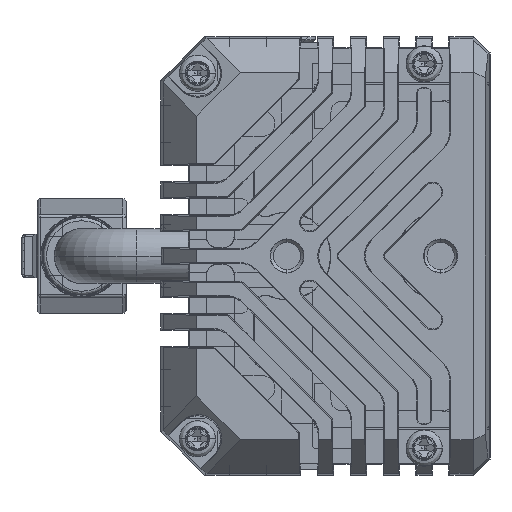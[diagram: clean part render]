
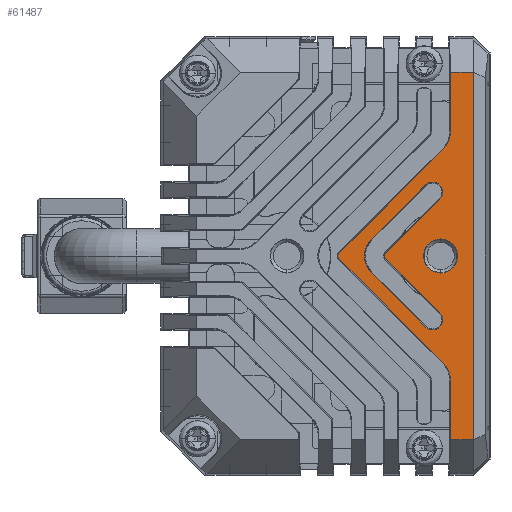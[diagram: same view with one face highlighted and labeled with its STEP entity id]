
A CAD part, left-side view. The second image highlights one B-rep face of the part: STEP entity #61487.
In plain terms, the highlighted planar face has unit normal (-1, 0, 0).
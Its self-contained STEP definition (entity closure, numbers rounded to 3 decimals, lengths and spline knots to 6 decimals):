
#12086=DIRECTION('',(0.,0.,1.));
#12087=VECTOR('',#12086,0.005438);
#12088=CARTESIAN_POINT('',(-0.414,-0.012607,0.011312));
#12089=LINE('',#12088,#12087);
#12378=DIRECTION('',(0.,0.,1.));
#12379=VECTOR('',#12378,0.005438);
#12380=CARTESIAN_POINT('',(-0.414,-0.012607,-0.01675));
#12381=LINE('',#12380,#12379);
#20001=CARTESIAN_POINT('',(-0.414,-0.0117,0.));
#20002=DIRECTION('',(-1.,0.,0.));
#20003=DIRECTION('',(0.,0.,-1.));
#20004=AXIS2_PLACEMENT_3D('',#20001,#20002,#20003);
#20006=CARTESIAN_POINT('',(-0.414,-0.0117,0.));
#20007=DIRECTION('',(-1.,0.,0.));
#20008=DIRECTION('',(0.,0.,1.));
#20009=AXIS2_PLACEMENT_3D('',#20006,#20007,#20008);
#20011=DIRECTION('',(0.,-0.707,-0.707));
#20012=VECTOR('',#20011,0.006997);
#20013=CARTESIAN_POINT('',(-0.414,-0.006673,-0.000242));
#20014=LINE('',#20013,#20012);
#20015=CARTESIAN_POINT('',(-0.414,-0.006916,0.));
#20016=DIRECTION('',(-1.,0.,0.));
#20017=DIRECTION('',(0.,0.707,0.707));
#20018=AXIS2_PLACEMENT_3D('',#20015,#20016,#20017);
#20020=DIRECTION('',(0.,0.707,-0.707));
#20021=VECTOR('',#20020,0.006997);
#20022=CARTESIAN_POINT('',(-0.414,-0.011621,0.00519));
#20023=LINE('',#20022,#20021);
#20024=CARTESIAN_POINT('',(-0.414,-0.01098,0.005831));
#20025=DIRECTION('',(1.,0.,0.));
#20026=DIRECTION('',(0.,0.707,0.707));
#20027=AXIS2_PLACEMENT_3D('',#20024,#20025,#20026);
#20029=DIRECTION('',(0.,-0.707,0.707));
#20030=VECTOR('',#20029,0.006997);
#20031=CARTESIAN_POINT('',(-0.414,-0.005391,0.001525));
#20032=LINE('',#20031,#20030);
#20033=CARTESIAN_POINT('',(-0.414,-0.006916,0.));
#20034=DIRECTION('',(1.,0.,0.));
#20035=DIRECTION('',(0.,0.707,-0.707));
#20036=AXIS2_PLACEMENT_3D('',#20033,#20034,#20035);
#20038=DIRECTION('',(0.,0.707,0.707));
#20039=VECTOR('',#20038,0.006997);
#20040=CARTESIAN_POINT('',(-0.414,-0.010338,-0.006473));
#20041=LINE('',#20040,#20039);
#20042=CARTESIAN_POINT('',(-0.414,-0.01098,-0.005831));
#20043=DIRECTION('',(-1.,0.,0.));
#20044=DIRECTION('',(0.,0.707,-0.707));
#20045=AXIS2_PLACEMENT_3D('',#20042,#20043,#20044);
#20047=DIRECTION('',(0.,-0.707,-0.707));
#20048=VECTOR('',#20047,0.013498);
#20049=CARTESIAN_POINT('',(-0.414,-0.002431,-0.000242));
#20050=LINE('',#20049,#20048);
#20051=CARTESIAN_POINT('',(-0.414,-0.002673,0.));
#20052=DIRECTION('',(-1.,0.,0.));
#20053=DIRECTION('',(0.,0.707,0.707));
#20054=AXIS2_PLACEMENT_3D('',#20051,#20052,#20053);
#20056=DIRECTION('',(0.,0.707,-0.707));
#20057=VECTOR('',#20056,0.013498);
#20058=CARTESIAN_POINT('',(-0.414,-0.011975,0.009787));
#20059=LINE('',#20058,#20057);
#20060=CARTESIAN_POINT('',(-0.414,-0.01045,0.011312));
#20061=DIRECTION('',(1.,0.,0.));
#20062=DIRECTION('',(0.,-1.,0.));
#20063=AXIS2_PLACEMENT_3D('',#20060,#20061,#20062);
#20065=CARTESIAN_POINT('',(-0.414,-0.01045,-0.011312));
#20066=DIRECTION('',(1.,0.,0.));
#20067=DIRECTION('',(0.,-0.707,0.707));
#20068=AXIS2_PLACEMENT_3D('',#20065,#20066,#20067);
#20213=DIRECTION('',(0.,-1.,0.));
#20214=VECTOR('',#20213,0.002093);
#20215=CARTESIAN_POINT('',(-0.414,-0.012607,0.01675));
#20216=LINE('',#20215,#20214);
#20365=DIRECTION('',(0.,1.,0.));
#20366=VECTOR('',#20365,0.002093);
#20367=CARTESIAN_POINT('',(-0.414,-0.0147,-0.01675));
#20368=LINE('',#20367,#20366);
#20385=DIRECTION('',(0.,0.,-1.));
#20386=VECTOR('',#20385,0.0335);
#20387=CARTESIAN_POINT('',(-0.414,-0.0147,0.01675));
#20388=LINE('',#20387,#20386);
#25744=CARTESIAN_POINT('',(-0.414,-0.002431,0.000242));
#25745=CARTESIAN_POINT('',(-0.414,-0.002431,-0.000242));
#25746=VERTEX_POINT('',#25744);
#25747=VERTEX_POINT('',#25745);
#25748=CARTESIAN_POINT('',(-0.414,-0.011975,0.009787));
#25749=VERTEX_POINT('',#25748);
#25750=CARTESIAN_POINT('',(-0.414,-0.012607,0.011312));
#25751=VERTEX_POINT('',#25750);
#25752=CARTESIAN_POINT('',(-0.414,-0.012607,0.01675));
#25753=VERTEX_POINT('',#25752);
#25754=CARTESIAN_POINT('',(-0.414,-0.0147,0.01675));
#25755=VERTEX_POINT('',#25754);
#25756=CARTESIAN_POINT('',(-0.414,-0.0147,-0.01675));
#25757=VERTEX_POINT('',#25756);
#25758=CARTESIAN_POINT('',(-0.414,-0.012607,-0.01675));
#25759=VERTEX_POINT('',#25758);
#25760=CARTESIAN_POINT('',(-0.414,-0.012607,-0.011312));
#25761=VERTEX_POINT('',#25760);
#25762=CARTESIAN_POINT('',(-0.414,-0.011975,-0.009787));
#25763=VERTEX_POINT('',#25762);
#25764=CARTESIAN_POINT('',(-0.414,-0.006673,0.000242));
#25765=CARTESIAN_POINT('',(-0.414,-0.006673,-0.000242));
#25766=VERTEX_POINT('',#25764);
#25767=VERTEX_POINT('',#25765);
#25768=CARTESIAN_POINT('',(-0.414,-0.011621,0.00519));
#25769=VERTEX_POINT('',#25768);
#25770=CARTESIAN_POINT('',(-0.414,-0.010338,0.006473));
#25771=VERTEX_POINT('',#25770);
#25772=CARTESIAN_POINT('',(-0.414,-0.005391,0.001525));
#25773=VERTEX_POINT('',#25772);
#25774=CARTESIAN_POINT('',(-0.414,-0.005391,-0.001525));
#25775=VERTEX_POINT('',#25774);
#25776=CARTESIAN_POINT('',(-0.414,-0.010338,-0.006473));
#25777=VERTEX_POINT('',#25776);
#25778=CARTESIAN_POINT('',(-0.414,-0.011621,-0.00519));
#25779=VERTEX_POINT('',#25778);
#26637=CARTESIAN_POINT('',(-0.414,-0.0117,0.00155));
#26639=VERTEX_POINT('',#26637);
#26642=CARTESIAN_POINT('',(-0.414,-0.0117,-0.00155));
#26644=VERTEX_POINT('',#26642);
#61440=CARTESIAN_POINT('',(-0.414,-0.0012,0.));
#61441=DIRECTION('',(-1.,0.,0.));
#61442=DIRECTION('',(0.,0.,1.));
#61443=AXIS2_PLACEMENT_3D('',#61440,#61441,#61442);
#61444=PLANE('',#61443);
#61446=ORIENTED_EDGE('',*,*,#61445,.F.);
#61448=ORIENTED_EDGE('',*,*,#61447,.F.);
#61449=ORIENTED_EDGE('',*,*,#61424,.F.);
#61450=ORIENTED_EDGE('',*,*,#61407,.F.);
#61451=ORIENTED_EDGE('',*,*,#49356,.T.);
#61453=ORIENTED_EDGE('',*,*,#61452,.T.);
#61455=ORIENTED_EDGE('',*,*,#61454,.T.);
#61457=ORIENTED_EDGE('',*,*,#61456,.T.);
#61458=ORIENTED_EDGE('',*,*,#49982,.T.);
#61460=ORIENTED_EDGE('',*,*,#61459,.F.);
#61461=EDGE_LOOP('',(#61446,#61448,#61449,#61450,#61451,#61453,#61455,#61457,
#61458,#61460));
#61462=FACE_OUTER_BOUND('',#61461,.F.);
#61464=ORIENTED_EDGE('',*,*,#61463,.F.);
#61466=ORIENTED_EDGE('',*,*,#61465,.F.);
#61468=ORIENTED_EDGE('',*,*,#61467,.F.);
#61470=ORIENTED_EDGE('',*,*,#61469,.F.);
#61472=ORIENTED_EDGE('',*,*,#61471,.F.);
#61474=ORIENTED_EDGE('',*,*,#61473,.F.);
#61476=ORIENTED_EDGE('',*,*,#61475,.F.);
#61478=ORIENTED_EDGE('',*,*,#61477,.T.);
#61479=EDGE_LOOP('',(#61464,#61466,#61468,#61470,#61472,#61474,#61476,#61478));
#61480=FACE_BOUND('',#61479,.F.);
#61482=ORIENTED_EDGE('',*,*,#61481,.T.);
#61484=ORIENTED_EDGE('',*,*,#61483,.T.);
#61485=EDGE_LOOP('',(#61482,#61484));
#61486=FACE_BOUND('',#61485,.F.);
#20005=CIRCLE('',#20004,0.00155);
#20010=CIRCLE('',#20009,0.00155);
#20019=CIRCLE('',#20018,0.000343);
#20028=CIRCLE('',#20027,0.000907);
#20037=CIRCLE('',#20036,0.002157);
#20046=CIRCLE('',#20045,0.000907);
#20055=CIRCLE('',#20054,0.000343);
#20064=CIRCLE('',#20063,0.002157);
#20069=CIRCLE('',#20068,0.002157);
#49356=EDGE_CURVE('',#25751,#25753,#12089,.T.);
#49982=EDGE_CURVE('',#25759,#25761,#12381,.T.);
#61407=EDGE_CURVE('',#25751,#25749,#20064,.T.);
#61424=EDGE_CURVE('',#25749,#25746,#20059,.T.);
#61445=EDGE_CURVE('',#25747,#25763,#20050,.T.);
#61447=EDGE_CURVE('',#25746,#25747,#20055,.T.);
#61452=EDGE_CURVE('',#25753,#25755,#20216,.T.);
#61454=EDGE_CURVE('',#25755,#25757,#20388,.T.);
#61456=EDGE_CURVE('',#25757,#25759,#20368,.T.);
#61459=EDGE_CURVE('',#25763,#25761,#20069,.T.);
#61463=EDGE_CURVE('',#25767,#25779,#20014,.T.);
#61465=EDGE_CURVE('',#25766,#25767,#20019,.T.);
#61467=EDGE_CURVE('',#25769,#25766,#20023,.T.);
#61469=EDGE_CURVE('',#25771,#25769,#20028,.T.);
#61471=EDGE_CURVE('',#25773,#25771,#20032,.T.);
#61473=EDGE_CURVE('',#25775,#25773,#20037,.T.);
#61475=EDGE_CURVE('',#25777,#25775,#20041,.T.);
#61477=EDGE_CURVE('',#25777,#25779,#20046,.T.);
#61481=EDGE_CURVE('',#26644,#26639,#20005,.T.);
#61483=EDGE_CURVE('',#26639,#26644,#20010,.T.);
#61487=ADVANCED_FACE('',(#61462,#61480,#61486),#61444,.T.);
